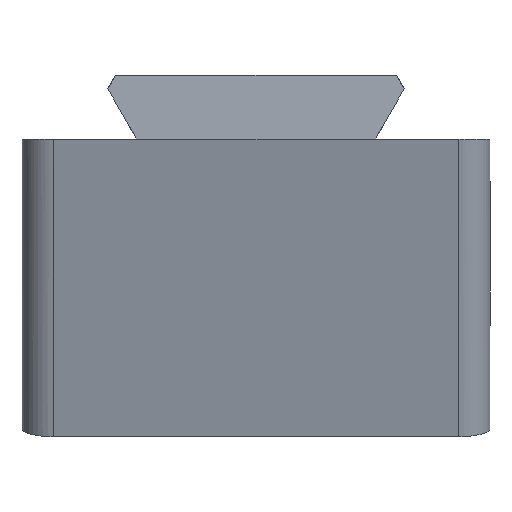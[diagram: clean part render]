
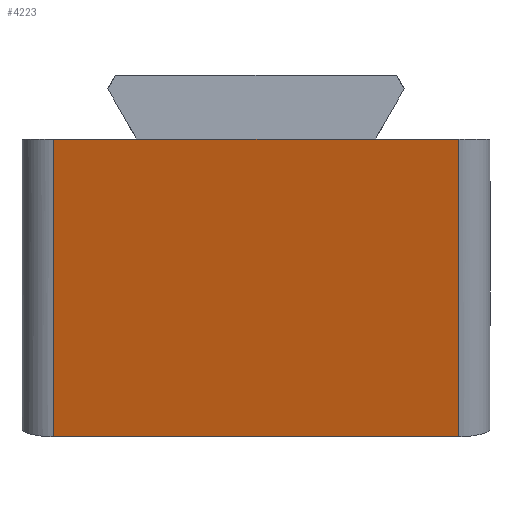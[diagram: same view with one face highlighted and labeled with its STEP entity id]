
A CAD part, left-side view. The second image highlights one B-rep face of the part: STEP entity #4223.
In plain terms, the highlighted planar face has unit normal (-0.966, 0, -0.259).
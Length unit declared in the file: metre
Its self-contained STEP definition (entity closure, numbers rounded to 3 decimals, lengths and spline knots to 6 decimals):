
#584=ORIENTED_EDGE('',*,*,#1644,.T.);
#585=ORIENTED_EDGE('',*,*,#1817,.T.);
#586=ORIENTED_EDGE('',*,*,#1574,.F.);
#587=ORIENTED_EDGE('',*,*,#1818,.T.);
#588=ORIENTED_EDGE('',*,*,#1656,.T.);
#589=ORIENTED_EDGE('',*,*,#1812,.T.);
#1574=EDGE_CURVE('',#2209,#2210,#2632,.T.);
#1644=EDGE_CURVE('',#2270,#2277,#2677,.T.);
#1656=EDGE_CURVE('',#2286,#2262,#2683,.T.);
#1812=EDGE_CURVE('',#2262,#2270,#2773,.T.);
#1817=EDGE_CURVE('',#2277,#2210,#2774,.T.);
#1818=EDGE_CURVE('',#2209,#2286,#2775,.F.);
#2209=VERTEX_POINT('',#5800);
#2210=VERTEX_POINT('',#5802);
#2262=VERTEX_POINT('',#5913);
#2270=VERTEX_POINT('',#5931);
#2277=VERTEX_POINT('',#5948);
#2286=VERTEX_POINT('',#5970);
#2632=LINE('',#5801,#3075);
#2677=LINE('',#5949,#3120);
#2683=LINE('',#5969,#3126);
#2773=LINE('',#6356,#3216);
#2774=LINE('',#6368,#3217);
#2775=LINE('',#6369,#3218);
#3075=VECTOR('',#4762,1.);
#3120=VECTOR('',#4877,1.);
#3126=VECTOR('',#4895,1.);
#3216=VECTOR('',#5053,1.);
#3217=VECTOR('',#5072,1.);
#3218=VECTOR('',#5073,1.);
#3559=EDGE_LOOP('',(#584,#585,#586,#587,#588,#589));
#3830=FACE_BOUND('',#3559,.T.);
#4074=PLANE('',#4537);
#4223=ADVANCED_FACE('',(#3830),#4074,.F.);
#4537=AXIS2_PLACEMENT_3D('',#6367,#5070,#5071);
#4762=DIRECTION('',(0.,1.,0.));
#4877=DIRECTION('',(0.,1.,0.));
#4895=DIRECTION('',(0.,1.,0.));
#5053=DIRECTION('',(0.,1.,0.));
#5070=DIRECTION('',(0.966,0.,0.259));
#5071=DIRECTION('',(0.259,0.,-0.966));
#5072=DIRECTION('',(0.259,0.,-0.966));
#5073=DIRECTION('',(0.259,0.,-0.966));
#5800=CARTESIAN_POINT('',(0.005108,-0.013,-0.019065));
#5801=CARTESIAN_POINT('',(0.005108,-0.015,-0.019065));
#5802=CARTESIAN_POINT('',(0.005108,0.013,-0.019065));
#5913=CARTESIAN_POINT('',(0.,-0.007695,0.));
#5931=CARTESIAN_POINT('',(0.,0.007695,0.));
#5948=CARTESIAN_POINT('',(0.,0.013,0.));
#5949=CARTESIAN_POINT('',(0.,-0.015,0.));
#5969=CARTESIAN_POINT('',(0.,-0.015,0.));
#5970=CARTESIAN_POINT('',(0.,-0.013,0.));
#6356=CARTESIAN_POINT('',(0.,0.,0.));
#6367=CARTESIAN_POINT('',(0.002554,-0.015,-0.009532));
#6368=CARTESIAN_POINT('',(0.002554,0.013,-0.009532));
#6369=CARTESIAN_POINT('',(0.,-0.013,0.));
